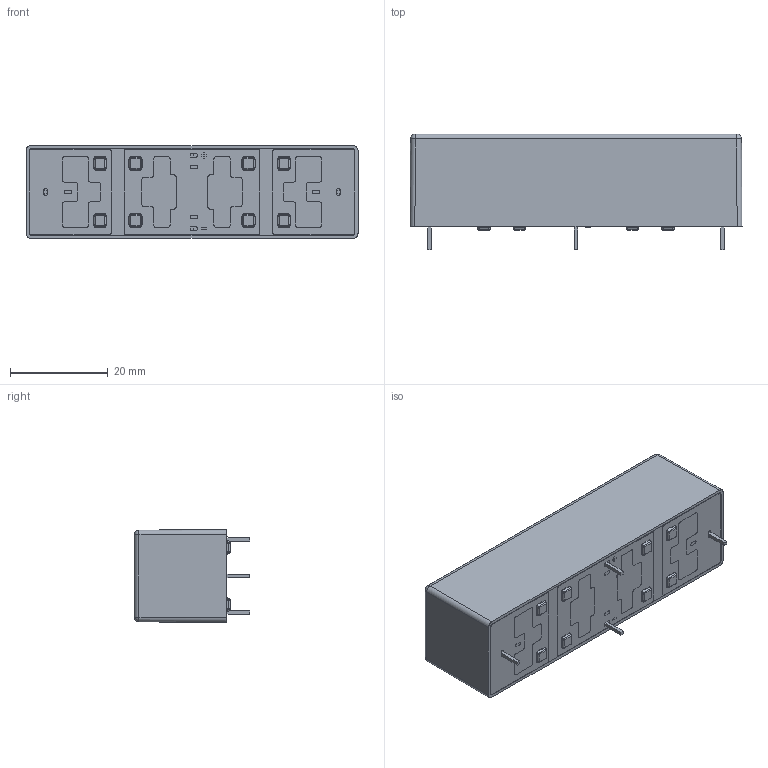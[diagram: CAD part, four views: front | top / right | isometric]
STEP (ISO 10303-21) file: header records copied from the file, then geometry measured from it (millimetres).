
FILE_DESCRIPTION (( 'STEP AP203' ), '1' );
FILE_NAME ('Series 600 - 620 1A or B PCB-2.STEP', '2025-07-01T09:11:34', ( '' ), ( '' ), 'SwSTEP 2.0', 'SolidWorks 2023', '' );
FILE_SCHEMA (( 'CONFIG_CONTROL_DESIGN' ));
Length unit declared in the file: millimetre
Products named in the file (1): Series 600 - 620 1A or B PCB-2
Bounding box: 68 x 23.7 x 19 mm (x, y, z)
Volume: 3034.7 mm3; surface area: 11562.8 mm2
Topology: 37 solids, 37 shells, 933 faces, 2396 edges, 1540 vertices
Faces by surface type: plane 437, cylinder 364, bspline 96, sphere 36
Entity records: 28991 total; most frequent: CARTESIAN_POINT 7154, ORIENTED_EDGE 4792, DIRECTION 4312, EDGE_CURVE 2396, VERTEX_POINT 1540, AXIS2_PLACEMENT_3D 1466, LINE 1380, VECTOR 1380
